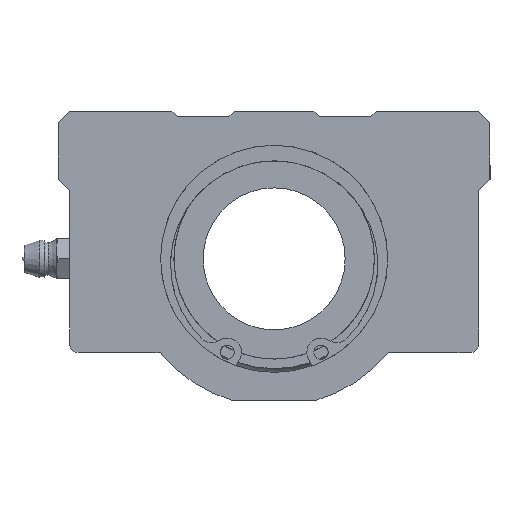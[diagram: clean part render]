
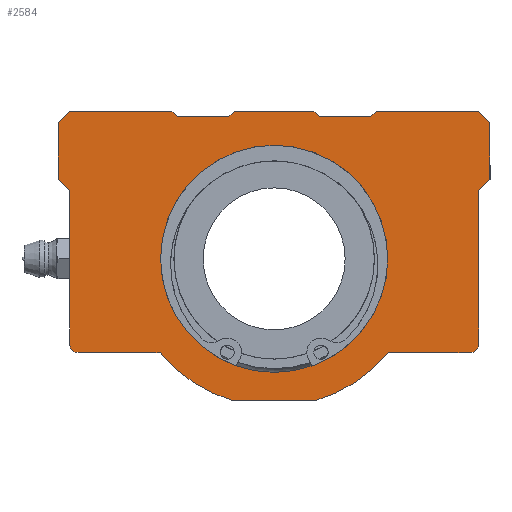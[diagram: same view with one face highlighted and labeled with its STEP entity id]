
A CAD part, left-side view. The second image highlights one B-rep face of the part: STEP entity #2584.
In plain terms, the highlighted planar face has unit normal (-1, 0, 0).
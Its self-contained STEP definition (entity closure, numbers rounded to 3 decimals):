
#1686=CARTESIAN_POINT('',(0.0,20.0,0.));
#1687=VERTEX_POINT('',#1686);
#1688=CARTESIAN_POINT('',(0.0,0.0,0.0));
#1689=DIRECTION('',(1.0,0.0,0.0));
#1690=DIRECTION('',(0.0,-1.0,0.0));
#1691=AXIS2_PLACEMENT_3D('',#1688,#1689,#1690);
#1692=CIRCLE('',#1691,20.0);
#1693=EDGE_CURVE('',#1687,#1687,#1692,.T.);
#1910=CARTESIAN_POINT('',(0.0,38.0,24.));
#1911=VERTEX_POINT('',#1910);
#1926=CARTESIAN_POINT('',(0.0,38.,14.));
#1927=VERTEX_POINT('',#1926);
#1934=CARTESIAN_POINT('',(0.0,38.,14.));
#1935=DIRECTION('',(0.0,0.0,1.0));
#1936=VECTOR('',#1935,10.);
#1937=LINE('',#1934,#1936);
#1938=EDGE_CURVE('',#1927,#1911,#1937,.T.);
#1948=CARTESIAN_POINT('',(0.0,36.0,-15.));
#1949=VERTEX_POINT('',#1948);
#1958=CARTESIAN_POINT('',(0.0,36.,12.));
#1959=VERTEX_POINT('',#1958);
#1960=CARTESIAN_POINT('',(0.0,36.0,-15.));
#1961=DIRECTION('',(0.0,0.0,1.0));
#1962=VECTOR('',#1961,27.);
#1963=LINE('',#1960,#1962);
#1964=EDGE_CURVE('',#1949,#1959,#1963,.T.);
#2049=CARTESIAN_POINT('',(0.0,7.141,-25.));
#2050=VERTEX_POINT('',#2049);
#2057=CARTESIAN_POINT('',(0.0,20.094,-16.5));
#2058=VERTEX_POINT('',#2057);
#2059=CARTESIAN_POINT('',(0.0,0.0,0.0));
#2060=DIRECTION('',(1.0,0.0,0.0));
#2061=DIRECTION('',(0.0,0.275,-0.962));
#2062=AXIS2_PLACEMENT_3D('',#2059,#2060,#2061);
#2063=CIRCLE('',#2062,26.0);
#2064=EDGE_CURVE('',#2050,#2058,#2063,.T.);
#2088=CARTESIAN_POINT('',(0.0,-7.141,-25.));
#2089=VERTEX_POINT('',#2088);
#2096=CARTESIAN_POINT('',(0.0,-7.141,-25.));
#2097=DIRECTION('',(0.0,1.0,0.0));
#2098=VECTOR('',#2097,14.283);
#2099=LINE('',#2096,#2098);
#2100=EDGE_CURVE('',#2089,#2050,#2099,.T.);
#2120=CARTESIAN_POINT('',(0.0,-20.094,-16.5));
#2121=VERTEX_POINT('',#2120);
#2128=CARTESIAN_POINT('',(0.0,0.0,0.0));
#2129=DIRECTION('',(1.0,0.0,0.0));
#2130=DIRECTION('',(0.0,0.275,-0.962));
#2131=AXIS2_PLACEMENT_3D('',#2128,#2129,#2130);
#2132=CIRCLE('',#2131,26.0);
#2133=EDGE_CURVE('',#2121,#2089,#2132,.T.);
#2144=CARTESIAN_POINT('',(0.0,-34.5,-16.5));
#2145=VERTEX_POINT('',#2144);
#2154=CARTESIAN_POINT('',(0.0,-34.5,-16.5));
#2155=DIRECTION('',(0.0,1.0,0.0));
#2156=VECTOR('',#2155,14.406);
#2157=LINE('',#2154,#2156);
#2158=EDGE_CURVE('',#2145,#2121,#2157,.T.);
#2181=CARTESIAN_POINT('',(0.0,-38.0,24.));
#2182=VERTEX_POINT('',#2181);
#2191=CARTESIAN_POINT('',(0.0,-38.,14.));
#2192=VERTEX_POINT('',#2191);
#2193=CARTESIAN_POINT('',(0.0,-38.0,24.));
#2194=DIRECTION('',(0.0,0.0,-1.0));
#2195=VECTOR('',#2194,10.);
#2196=LINE('',#2193,#2195);
#2197=EDGE_CURVE('',#2182,#2192,#2196,.T.);
#2223=CARTESIAN_POINT('',(0.0,-36.0,26.));
#2224=VERTEX_POINT('',#2223);
#2239=CARTESIAN_POINT('',(0.0,-18.0,26.));
#2240=VERTEX_POINT('',#2239);
#2247=CARTESIAN_POINT('',(0.0,-18.0,26.));
#2248=DIRECTION('',(0.0,-1.0,0.0));
#2249=VECTOR('',#2248,18.0);
#2250=LINE('',#2247,#2249);
#2251=EDGE_CURVE('',#2240,#2224,#2250,.T.);
#2274=CARTESIAN_POINT('',(0.0,-36.0,26.));
#2275=DIRECTION('',(0.0,-0.707,-0.707));
#2276=VECTOR('',#2275,2.828);
#2277=LINE('',#2274,#2276);
#2278=EDGE_CURVE('',#2224,#2182,#2277,.T.);
#2289=CARTESIAN_POINT('',(0.0,36.0,26.));
#2290=VERTEX_POINT('',#2289);
#2299=CARTESIAN_POINT('',(0.0,18.0,26.));
#2300=VERTEX_POINT('',#2299);
#2301=CARTESIAN_POINT('',(0.0,36.0,26.));
#2302=DIRECTION('',(0.0,-1.0,0.0));
#2303=VECTOR('',#2302,18.0);
#2304=LINE('',#2301,#2303);
#2305=EDGE_CURVE('',#2290,#2300,#2304,.T.);
#2342=CARTESIAN_POINT('',(0.0,38.0,24.));
#2343=DIRECTION('',(0.0,-0.707,0.707));
#2344=VECTOR('',#2343,2.828);
#2345=LINE('',#2342,#2344);
#2346=EDGE_CURVE('',#1911,#2290,#2345,.T.);
#2357=CARTESIAN_POINT('',(0.0,-17.0,25.));
#2358=VERTEX_POINT('',#2357);
#2359=CARTESIAN_POINT('',(0.0,-17.0,25.));
#2360=DIRECTION('',(0.0,-0.707,0.707));
#2361=VECTOR('',#2360,1.414);
#2362=LINE('',#2359,#2361);
#2363=EDGE_CURVE('',#2358,#2240,#2362,.T.);
#2388=CARTESIAN_POINT('',(0.0,17.,25.));
#2389=VERTEX_POINT('',#2388);
#2390=CARTESIAN_POINT('',(0.0,18.0,26.));
#2391=DIRECTION('',(0.0,-0.707,-0.707));
#2392=VECTOR('',#2391,1.414);
#2393=LINE('',#2390,#2392);
#2394=EDGE_CURVE('',#2300,#2389,#2393,.T.);
#2419=CARTESIAN_POINT('',(0.0,-36.,12.));
#2420=VERTEX_POINT('',#2419);
#2421=CARTESIAN_POINT('',(0.0,-38.,14.));
#2422=DIRECTION('',(0.0,0.707,-0.707));
#2423=VECTOR('',#2422,2.828);
#2424=LINE('',#2421,#2423);
#2425=EDGE_CURVE('',#2192,#2420,#2424,.T.);
#2450=CARTESIAN_POINT('',(0.0,36.,12.));
#2451=DIRECTION('',(0.0,0.707,0.707));
#2452=VECTOR('',#2451,2.828);
#2453=LINE('',#2450,#2452);
#2454=EDGE_CURVE('',#1959,#1927,#2453,.T.);
#2474=CARTESIAN_POINT('',(0.0,-36.0,-15.));
#2475=VERTEX_POINT('',#2474);
#2489=CARTESIAN_POINT('',(0.0,-36.,12.));
#2490=DIRECTION('',(0.0,0.0,-1.0));
#2491=VECTOR('',#2490,27.);
#2492=LINE('',#2489,#2491);
#2493=EDGE_CURVE('',#2420,#2475,#2492,.T.);
#2498=CARTESIAN_POINT('',(0.0,0.,3.14));
#2499=DIRECTION('',(1.0,0.0,0.0));
#2500=DIRECTION('',(0.0,0.0,-1.0));
#2501=AXIS2_PLACEMENT_3D('',#2498,#2499,#2500);
#2502=PLANE('',#2501);
#2503=CARTESIAN_POINT('',(0.0,34.5,-16.5));
#2504=VERTEX_POINT('',#2503);
#2505=CARTESIAN_POINT('',(0.0,34.5,-15.));
#2506=DIRECTION('',(1.0,0.0,0.0));
#2507=DIRECTION('',(0.0,0.707,-0.707));
#2508=AXIS2_PLACEMENT_3D('',#2505,#2506,#2507);
#2509=CIRCLE('',#2508,1.5);
#2510=EDGE_CURVE('',#2504,#1949,#2509,.T.);
#2511=ORIENTED_EDGE('',*,*,#2510,.F.);
#2512=CARTESIAN_POINT('',(0.0,20.094,-16.5));
#2513=DIRECTION('',(0.0,1.0,0.0));
#2514=VECTOR('',#2513,14.406);
#2515=LINE('',#2512,#2514);
#2516=EDGE_CURVE('',#2058,#2504,#2515,.T.);
#2517=ORIENTED_EDGE('',*,*,#2516,.F.);
#2518=ORIENTED_EDGE('',*,*,#2064,.F.);
#2519=ORIENTED_EDGE('',*,*,#2100,.F.);
#2520=ORIENTED_EDGE('',*,*,#2133,.F.);
#2521=ORIENTED_EDGE('',*,*,#2158,.F.);
#2522=CARTESIAN_POINT('',(0.0,-34.5,-15.));
#2523=DIRECTION('',(1.0,0.0,0.0));
#2524=DIRECTION('',(0.0,-0.707,-0.707));
#2525=AXIS2_PLACEMENT_3D('',#2522,#2523,#2524);
#2526=CIRCLE('',#2525,1.5);
#2527=EDGE_CURVE('',#2475,#2145,#2526,.T.);
#2528=ORIENTED_EDGE('',*,*,#2527,.F.);
#2529=ORIENTED_EDGE('',*,*,#2493,.F.);
#2530=ORIENTED_EDGE('',*,*,#2425,.F.);
#2531=ORIENTED_EDGE('',*,*,#2197,.F.);
#2532=ORIENTED_EDGE('',*,*,#2278,.F.);
#2533=ORIENTED_EDGE('',*,*,#2251,.F.);
#2534=ORIENTED_EDGE('',*,*,#2363,.F.);
#2535=CARTESIAN_POINT('',(0.0,-8.,25.));
#2536=VERTEX_POINT('',#2535);
#2537=CARTESIAN_POINT('',(0.0,-8.,25.));
#2538=DIRECTION('',(0.0,-1.0,0.0));
#2539=VECTOR('',#2538,9.);
#2540=LINE('',#2537,#2539);
#2541=EDGE_CURVE('',#2536,#2358,#2540,.T.);
#2542=ORIENTED_EDGE('',*,*,#2541,.F.);
#2543=CARTESIAN_POINT('',(0.0,-7.,26.));
#2544=VERTEX_POINT('',#2543);
#2545=CARTESIAN_POINT('',(0.0,-7.,26.));
#2546=DIRECTION('',(0.0,-0.707,-0.707));
#2547=VECTOR('',#2546,1.414);
#2548=LINE('',#2545,#2547);
#2549=EDGE_CURVE('',#2544,#2536,#2548,.T.);
#2550=ORIENTED_EDGE('',*,*,#2549,.F.);
#2551=CARTESIAN_POINT('',(0.0,7.,26.0));
#2552=VERTEX_POINT('',#2551);
#2553=CARTESIAN_POINT('',(0.0,7.,26.0));
#2554=DIRECTION('',(0.0,-1.0,0.0));
#2555=VECTOR('',#2554,14.);
#2556=LINE('',#2553,#2555);
#2557=EDGE_CURVE('',#2552,#2544,#2556,.T.);
#2558=ORIENTED_EDGE('',*,*,#2557,.F.);
#2559=CARTESIAN_POINT('',(0.0,8.,25.));
#2560=VERTEX_POINT('',#2559);
#2561=CARTESIAN_POINT('',(0.0,8.,25.));
#2562=DIRECTION('',(0.0,-0.707,0.707));
#2563=VECTOR('',#2562,1.414);
#2564=LINE('',#2561,#2563);
#2565=EDGE_CURVE('',#2560,#2552,#2564,.T.);
#2566=ORIENTED_EDGE('',*,*,#2565,.F.);
#2567=CARTESIAN_POINT('',(0.0,17.,25.));
#2568=DIRECTION('',(0.0,-1.0,0.0));
#2569=VECTOR('',#2568,9.);
#2570=LINE('',#2567,#2569);
#2571=EDGE_CURVE('',#2389,#2560,#2570,.T.);
#2572=ORIENTED_EDGE('',*,*,#2571,.F.);
#2573=ORIENTED_EDGE('',*,*,#2394,.F.);
#2574=ORIENTED_EDGE('',*,*,#2305,.F.);
#2575=ORIENTED_EDGE('',*,*,#2346,.F.);
#2576=ORIENTED_EDGE('',*,*,#1938,.F.);
#2577=ORIENTED_EDGE('',*,*,#2454,.F.);
#2578=ORIENTED_EDGE('',*,*,#1964,.F.);
#2579=EDGE_LOOP('',(#2511,#2517,#2518,#2519,#2520,#2521,#2528,#2529,#2530,#2531,#2532,#2533,#2534,#2542,#2550,#2558,#2566,#2572,#2573,#2574,#2575,#2576,#2577,#2578));
#2580=FACE_OUTER_BOUND('',#2579,.T.);
#2581=ORIENTED_EDGE('',*,*,#1693,.T.);
#2582=EDGE_LOOP('',(#2581));
#2583=FACE_BOUND('',#2582,.T.);
#2584=ADVANCED_FACE('',(#2580,#2583),#2502,.F.);
